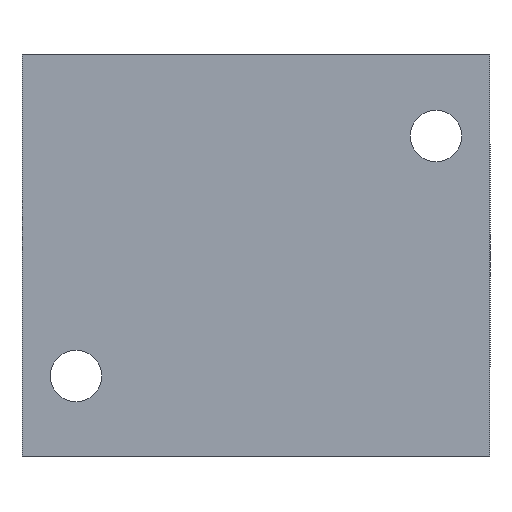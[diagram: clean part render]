
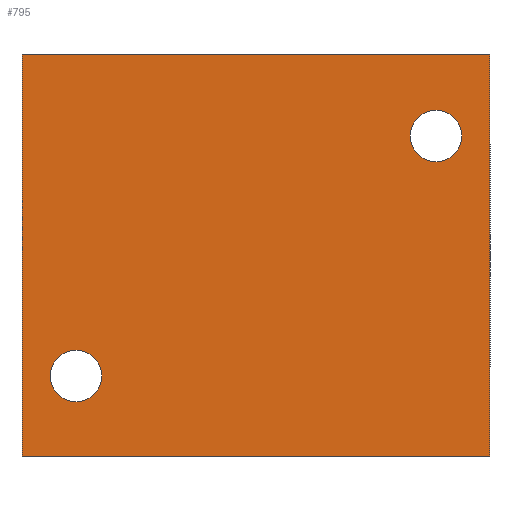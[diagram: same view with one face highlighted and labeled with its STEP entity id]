
A CAD part, front view. The second image highlights one B-rep face of the part: STEP entity #795.
In plain terms, the highlighted planar face has unit normal (0, -1, 0).
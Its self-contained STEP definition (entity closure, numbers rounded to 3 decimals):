
#13 = ORIENTED_EDGE ( 'NONE', *, *, #1017, .F. ) ;
#21 = EDGE_CURVE ( 'NONE', #2055, #301, #2023, .T. ) ;
#75 = LINE ( 'NONE', #89, #1270 ) ;
#89 = CARTESIAN_POINT ( 'NONE',  ( 39., -30., 33.5 ) ) ;
#199 = EDGE_LOOP ( 'NONE', ( #490, #1811, #1837, #1244 ) ) ;
#202 = AXIS2_PLACEMENT_3D ( 'NONE', #926, #1255, #2073 ) ;
#215 = DIRECTION ( 'NONE',  ( 0., 0., -1. ) ) ;
#291 = CARTESIAN_POINT ( 'NONE',  ( 30., -30., 24.3 ) ) ;
#301 = VERTEX_POINT ( 'NONE', #1563 ) ;
#347 = DIRECTION ( 'NONE',  ( 1., 0., 0. ) ) ;
#440 = CIRCLE ( 'NONE', #684, 4.3 ) ;
#458 = CARTESIAN_POINT ( 'NONE',  ( -39., -30., 33.5 ) ) ;
#487 = DIRECTION ( 'NONE',  ( 0., 0., -1. ) ) ;
#490 = ORIENTED_EDGE ( 'NONE', *, *, #21, .T. ) ;
#519 = DIRECTION ( 'NONE',  ( 0., -1., 0. ) ) ;
#564 = PLANE ( 'NONE',  #202 ) ;
#587 = ORIENTED_EDGE ( 'NONE', *, *, #1980, .F. ) ;
#597 = CARTESIAN_POINT ( 'NONE',  ( 39., -30., 33.5 ) ) ;
#638 = EDGE_LOOP ( 'NONE', ( #1710, #928 ) ) ;
#684 = AXIS2_PLACEMENT_3D ( 'NONE', #1057, #1730, #215 ) ;
#687 = VERTEX_POINT ( 'NONE', #597 ) ;
#768 = VERTEX_POINT ( 'NONE', #1928 ) ;
#795 = ADVANCED_FACE ( 'NONE', ( #1395, #1407, #1590 ), #564, .F. ) ;
#808 = AXIS2_PLACEMENT_3D ( 'NONE', #2038, #519, #1542 ) ;
#834 = CARTESIAN_POINT ( 'NONE',  ( -39., -30., 33.5 ) ) ;
#850 = EDGE_CURVE ( 'NONE', #1438, #933, #440, .T. ) ;
#926 = CARTESIAN_POINT ( 'NONE',  ( -39., -30., 33.5 ) ) ;
#928 = ORIENTED_EDGE ( 'NONE', *, *, #1575, .F. ) ;
#933 = VERTEX_POINT ( 'NONE', #291 ) ;
#979 = CARTESIAN_POINT ( 'NONE',  ( 30., -30., 20. ) ) ;
#982 = CIRCLE ( 'NONE', #1866, 4.3 ) ;
#1017 = EDGE_CURVE ( 'NONE', #1537, #1310, #2035, .T. ) ;
#1028 = CIRCLE ( 'NONE', #808, 4.3 ) ;
#1057 = CARTESIAN_POINT ( 'NONE',  ( 30., -30., 20. ) ) ;
#1061 = VECTOR ( 'NONE', #1148, 1000. ) ;
#1065 = CARTESIAN_POINT ( 'NONE',  ( -30., -30., -15.7 ) ) ;
#1125 = DIRECTION ( 'NONE',  ( 0., 0., -1. ) ) ;
#1140 = DIRECTION ( 'NONE',  ( 0., -1., 0. ) ) ;
#1148 = DIRECTION ( 'NONE',  ( 1., 0., 0. ) ) ;
#1206 = VECTOR ( 'NONE', #487, 1000. ) ;
#1244 = ORIENTED_EDGE ( 'NONE', *, *, #1799, .T. ) ;
#1255 = DIRECTION ( 'NONE',  ( 0., 1., 0. ) ) ;
#1270 = VECTOR ( 'NONE', #1430, 1000. ) ;
#1310 = VERTEX_POINT ( 'NONE', #1973 ) ;
#1395 = FACE_BOUND ( 'NONE', #1749, .T. ) ;
#1407 = FACE_OUTER_BOUND ( 'NONE', #199, .T. ) ;
#1430 = DIRECTION ( 'NONE',  ( 0., 0., -1. ) ) ;
#1438 = VERTEX_POINT ( 'NONE', #2006 ) ;
#1500 = VECTOR ( 'NONE', #347, 1000. ) ;
#1537 = VERTEX_POINT ( 'NONE', #1065 ) ;
#1542 = DIRECTION ( 'NONE',  ( 0., 0., -1. ) ) ;
#1563 = CARTESIAN_POINT ( 'NONE',  ( 39., -30., -33.5 ) ) ;
#1574 = EDGE_CURVE ( 'NONE', #687, #301, #75, .T. ) ;
#1575 = EDGE_CURVE ( 'NONE', #933, #1438, #982, .T. ) ;
#1590 = FACE_BOUND ( 'NONE', #638, .T. ) ;
#1657 = DIRECTION ( 'NONE',  ( 0., -1., 0. ) ) ;
#1710 = ORIENTED_EDGE ( 'NONE', *, *, #850, .F. ) ;
#1730 = DIRECTION ( 'NONE',  ( 0., -1., 0. ) ) ;
#1749 = EDGE_LOOP ( 'NONE', ( #587, #13 ) ) ;
#1782 = CARTESIAN_POINT ( 'NONE',  ( -30., -30., -20. ) ) ;
#1799 = EDGE_CURVE ( 'NONE', #768, #2055, #2004, .T. ) ;
#1811 = ORIENTED_EDGE ( 'NONE', *, *, #1574, .F. ) ;
#1829 = AXIS2_PLACEMENT_3D ( 'NONE', #1782, #1140, #1125 ) ;
#1837 = ORIENTED_EDGE ( 'NONE', *, *, #2118, .F. ) ;
#1860 = CARTESIAN_POINT ( 'NONE',  ( -39., -30., -33.5 ) ) ;
#1866 = AXIS2_PLACEMENT_3D ( 'NONE', #979, #1657, #1924 ) ;
#1924 = DIRECTION ( 'NONE',  ( 0., 0., -1. ) ) ;
#1928 = CARTESIAN_POINT ( 'NONE',  ( -39., -30., 33.5 ) ) ;
#1940 = CARTESIAN_POINT ( 'NONE',  ( -39., -30., -33.5 ) ) ;
#1973 = CARTESIAN_POINT ( 'NONE',  ( -30., -30., -24.3 ) ) ;
#1975 = LINE ( 'NONE', #458, #1061 ) ;
#1980 = EDGE_CURVE ( 'NONE', #1310, #1537, #1028, .T. ) ;
#2004 = LINE ( 'NONE', #834, #1206 ) ;
#2006 = CARTESIAN_POINT ( 'NONE',  ( 30., -30., 15.7 ) ) ;
#2023 = LINE ( 'NONE', #1860, #1500 ) ;
#2035 = CIRCLE ( 'NONE', #1829, 4.3 ) ;
#2038 = CARTESIAN_POINT ( 'NONE',  ( -30., -30., -20. ) ) ;
#2055 = VERTEX_POINT ( 'NONE', #1940 ) ;
#2073 = DIRECTION ( 'NONE',  ( 0., 0., 1. ) ) ;
#2118 = EDGE_CURVE ( 'NONE', #768, #687, #1975, .T. ) ;
